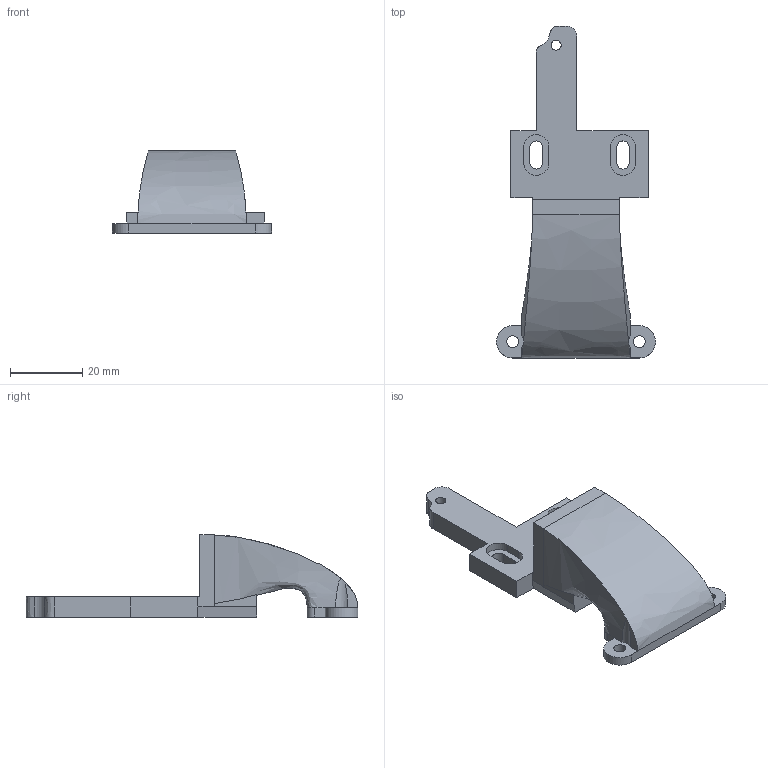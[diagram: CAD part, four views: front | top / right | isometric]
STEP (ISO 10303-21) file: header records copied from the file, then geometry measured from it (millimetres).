
FILE_DESCRIPTION(/* description */ (''),/* implementation_level */ '2;1');
FILE_NAME(/* name */ 'BugBu 5015 Adapter Single Screw v1.step',/* time_stamp */ '2023-03-23T06:34:48-06:00',/* author */ (''),/* organization */ (''),/* preprocessor_version */ 'ST-DEVELOPER v19.2',/* originating_system */ 'Autodesk Translation Framework v11.17.0.187',/* authorisation */ '');
FILE_SCHEMA (('AUTOMOTIVE_DESIGN { 1 0 10303 214 3 1 1 }'));
Products named in the file (2): BugBu 5015 Adapter Single Screw; 5015_Adapter
Assembly tree (1 placements, depth 2):
  BugBu 5015 Adapter Single Screw
    5015_Adapter
Bounding box: 44 x 91.78 x 22.7 mm (x, y, z)
Volume: 10855.7 mm3; surface area: 10851.7 mm2
Topology: 1 solids, 1 shells, 98 faces, 312 edges, 216 vertices
Faces by surface type: plane 55, bspline 23, cylinder 20
Full cylindrical faces by diameter (mm): 2.8 x1, 3.3 x2
Entity records: 61995 total; most frequent: CARTESIAN_POINT 59394, ORIENTED_EDGE 624, DIRECTION 387, EDGE_CURVE 312, VERTEX_POINT 216, LINE 153, VECTOR 153, B_SPLINE_CURVE_WITH_KNOTS 120
